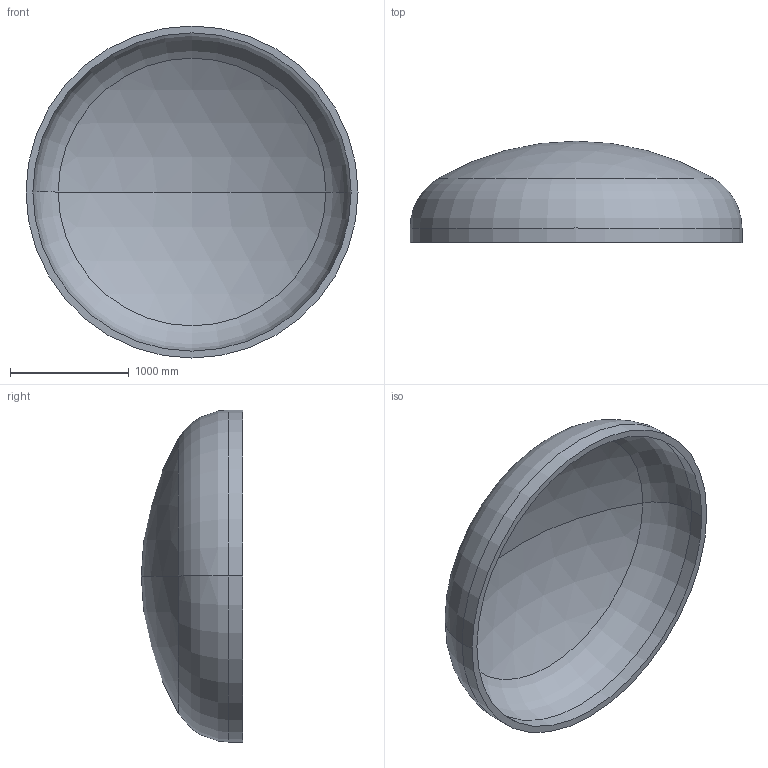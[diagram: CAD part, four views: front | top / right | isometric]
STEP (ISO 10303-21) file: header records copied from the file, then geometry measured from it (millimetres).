
FILE_DESCRIPTION (( 'STEP AP203' ), '1' );
FILE_NAME ('DIN 28013 Korbbogenform_-_Boden DIN 28013 - 2800 x 120 - I - s=58.step', '2016-07-01T17:05:56', ( '' ), ( '' ), 'SwSTEP 2.0', 'SolidWorks 2013', '' );
FILE_SCHEMA (( 'CONFIG_CONTROL_DESIGN' ));
Length unit declared in the file: millimetre
Products named in the file (1): DIN 28013 Korbbogenform_-_Boden DIN 28013 - 2800 x 120 - I - s=58
Bounding box: 2800 x 854.56 x 2800 mm (x, y, z)
Volume: 541017668.7 mm3; surface area: 19162447.3 mm2
Topology: 1 solids, 1 shells, 13 faces, 24 edges, 14 vertices
Faces by surface type: torus 4, cylinder 4, sphere 4, plane 1
Entity records: 407 total; most frequent: DIRECTION 72, CARTESIAN_POINT 52, ORIENTED_EDGE 48, AXIS2_PLACEMENT_3D 34, EDGE_CURVE 24, CIRCLE 20, EDGE_LOOP 14, VERTEX_POINT 14
